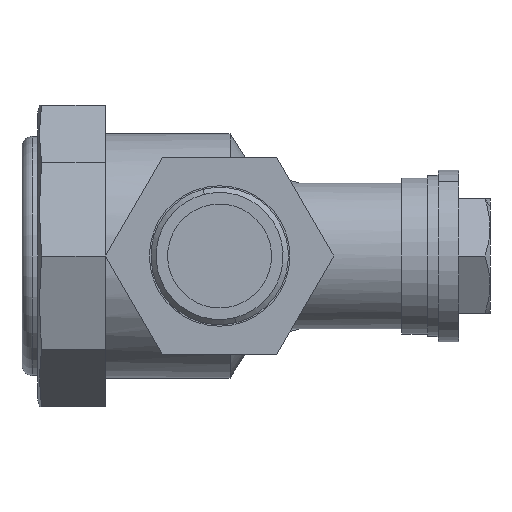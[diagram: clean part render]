
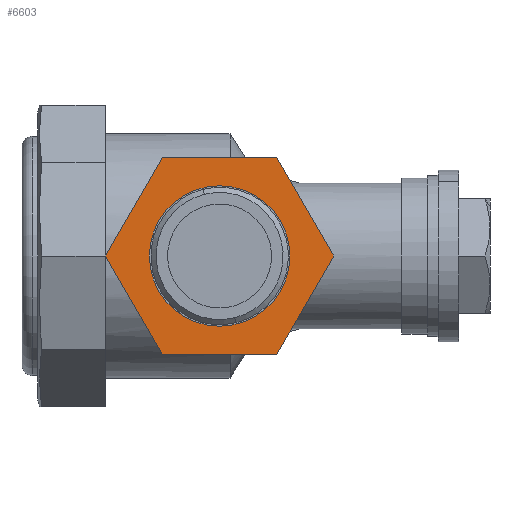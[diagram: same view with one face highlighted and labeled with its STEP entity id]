
A CAD part, left-side view. The second image highlights one B-rep face of the part: STEP entity #6603.
In plain terms, the highlighted planar face has unit normal (-1, 0, 0).
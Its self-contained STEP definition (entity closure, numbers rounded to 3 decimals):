
#573 = CARTESIAN_POINT ( 'NONE',  ( -53.434, -30.367, 0. ) ) ;
#6520 = VERTEX_POINT ( 'NONE', #573 ) ;
#6526 = EDGE_CURVE ( 'NONE', #6527, #6520, #11241, .T. ) ;
#6527 = VERTEX_POINT ( 'NONE', #11236 ) ;
#6534 = EDGE_CURVE ( 'NONE', #6520, #6527, #11235, .T. ) ;
#6535 = ORIENTED_EDGE ( 'NONE', *, *, #6582, .T. ) ;
#6555 = VERTEX_POINT ( 'NONE', #11259 ) ;
#6582 = EDGE_CURVE ( 'NONE', #6602, #6591, #11278, .T. ) ;
#6591 = VERTEX_POINT ( 'NONE', #11327 ) ;
#6595 = ORIENTED_EDGE ( 'NONE', *, *, #6601, .T. ) ;
#6598 = EDGE_LOOP ( 'NONE', ( #6535, #6595, #6635, #6604, #6611, #6605 ) ) ;
#6601 = EDGE_CURVE ( 'NONE', #6591, #6555, #11315, .T. ) ;
#6602 = VERTEX_POINT ( 'NONE', #11311 ) ;
#6603 = ADVANCED_FACE ( 'NONE', ( #11310, #11309 ), #11372, .T. ) ;
#6604 = ORIENTED_EDGE ( 'NONE', *, *, #6608, .T. ) ;
#6605 = ORIENTED_EDGE ( 'NONE', *, *, #6610, .T. ) ;
#6606 = VERTEX_POINT ( 'NONE', #11367 ) ;
#6608 = EDGE_CURVE ( 'NONE', #6606, #6615, #11366, .T. ) ;
#6610 = EDGE_CURVE ( 'NONE', #6630, #6602, #11362, .T. ) ;
#6611 = ORIENTED_EDGE ( 'NONE', *, *, #6612, .T. ) ;
#6612 = EDGE_CURVE ( 'NONE', #6615, #6630, #11358, .T. ) ;
#6613 = EDGE_LOOP ( 'NONE', ( #6628, #6616 ) ) ;
#6614 = EDGE_CURVE ( 'NONE', #6555, #6606, #11354, .T. ) ;
#6615 = VERTEX_POINT ( 'NONE', #11350 ) ;
#6616 = ORIENTED_EDGE ( 'NONE', *, *, #6534, .F. ) ;
#6628 = ORIENTED_EDGE ( 'NONE', *, *, #6526, .F. ) ;
#6630 = VERTEX_POINT ( 'NONE', #11397 ) ;
#6635 = ORIENTED_EDGE ( 'NONE', *, *, #6614, .T. ) ;
#11231 = DIRECTION ( 'NONE',  ( 0., -1., 0. ) ) ;
#11232 = DIRECTION ( 'NONE',  ( -1., 0., 0. ) ) ;
#11233 = CARTESIAN_POINT ( 'NONE',  ( -53.434, -16.867, 0. ) ) ;
#11234 = AXIS2_PLACEMENT_3D ( 'NONE', #11233, #11232, #11231 ) ;
#11235 = CIRCLE ( 'NONE', #11234, 13.5 ) ;
#11236 = CARTESIAN_POINT ( 'NONE',  ( -53.434, -3.367, 0. ) ) ;
#11237 = DIRECTION ( 'NONE',  ( 0., -1., 0. ) ) ;
#11238 = DIRECTION ( 'NONE',  ( -1., 0., 0. ) ) ;
#11239 = CARTESIAN_POINT ( 'NONE',  ( -53.434, -16.867, 0. ) ) ;
#11240 = AXIS2_PLACEMENT_3D ( 'NONE', #11239, #11238, #11237 ) ;
#11241 = CIRCLE ( 'NONE', #11240, 13.5 ) ;
#11259 = CARTESIAN_POINT ( 'NONE',  ( -53.434, -5.897, -19. ) ) ;
#11278 = LINE ( 'NONE', #11341, #11340 ) ;
#11309 = FACE_BOUND ( 'NONE', #6613, .T. ) ;
#11310 = FACE_OUTER_BOUND ( 'NONE', #6598, .T. ) ;
#11311 = CARTESIAN_POINT ( 'NONE',  ( -53.434, -5.897, 19. ) ) ;
#11312 = DIRECTION ( 'NONE',  ( 0., -0.5, -0.866 ) ) ;
#11313 = VECTOR ( 'NONE', #11312, 1000. ) ;
#11314 = CARTESIAN_POINT ( 'NONE',  ( -53.434, 5.073, 0. ) ) ;
#11315 = LINE ( 'NONE', #11314, #11313 ) ;
#11327 = CARTESIAN_POINT ( 'NONE',  ( -53.434, 5.073, 0. ) ) ;
#11339 = DIRECTION ( 'NONE',  ( 0., 0.5, -0.866 ) ) ;
#11340 = VECTOR ( 'NONE', #11339, 1000. ) ;
#11341 = CARTESIAN_POINT ( 'NONE',  ( -53.434, -5.897, 19. ) ) ;
#11350 = CARTESIAN_POINT ( 'NONE',  ( -53.434, -38.806, 0. ) ) ;
#11351 = DIRECTION ( 'NONE',  ( 0., -1., 0. ) ) ;
#11352 = VECTOR ( 'NONE', #11351, 1000. ) ;
#11353 = CARTESIAN_POINT ( 'NONE',  ( -53.434, -5.897, -19. ) ) ;
#11354 = LINE ( 'NONE', #11353, #11352 ) ;
#11355 = DIRECTION ( 'NONE',  ( 0., 0.5, 0.866 ) ) ;
#11356 = VECTOR ( 'NONE', #11355, 1000. ) ;
#11357 = CARTESIAN_POINT ( 'NONE',  ( -53.434, -38.806, 0. ) ) ;
#11358 = LINE ( 'NONE', #11357, #11356 ) ;
#11359 = DIRECTION ( 'NONE',  ( 0., 1., 0. ) ) ;
#11360 = VECTOR ( 'NONE', #11359, 1000. ) ;
#11361 = CARTESIAN_POINT ( 'NONE',  ( -53.434, -27.836, 19. ) ) ;
#11362 = LINE ( 'NONE', #11361, #11360 ) ;
#11363 = DIRECTION ( 'NONE',  ( 0., -0.5, 0.866 ) ) ;
#11364 = VECTOR ( 'NONE', #11363, 1000. ) ;
#11365 = CARTESIAN_POINT ( 'NONE',  ( -53.434, -27.836, -19. ) ) ;
#11366 = LINE ( 'NONE', #11365, #11364 ) ;
#11367 = CARTESIAN_POINT ( 'NONE',  ( -53.434, -27.836, -19. ) ) ;
#11368 = DIRECTION ( 'NONE',  ( 0., -1., 0. ) ) ;
#11369 = DIRECTION ( 'NONE',  ( -1., 0., 0. ) ) ;
#11370 = CARTESIAN_POINT ( 'NONE',  ( -53.434, 5.073, 0. ) ) ;
#11371 = AXIS2_PLACEMENT_3D ( 'NONE', #11370, #11369, #11368 ) ;
#11372 = PLANE ( 'NONE',  #11371 ) ;
#11397 = CARTESIAN_POINT ( 'NONE',  ( -53.434, -27.836, 19. ) ) ;
